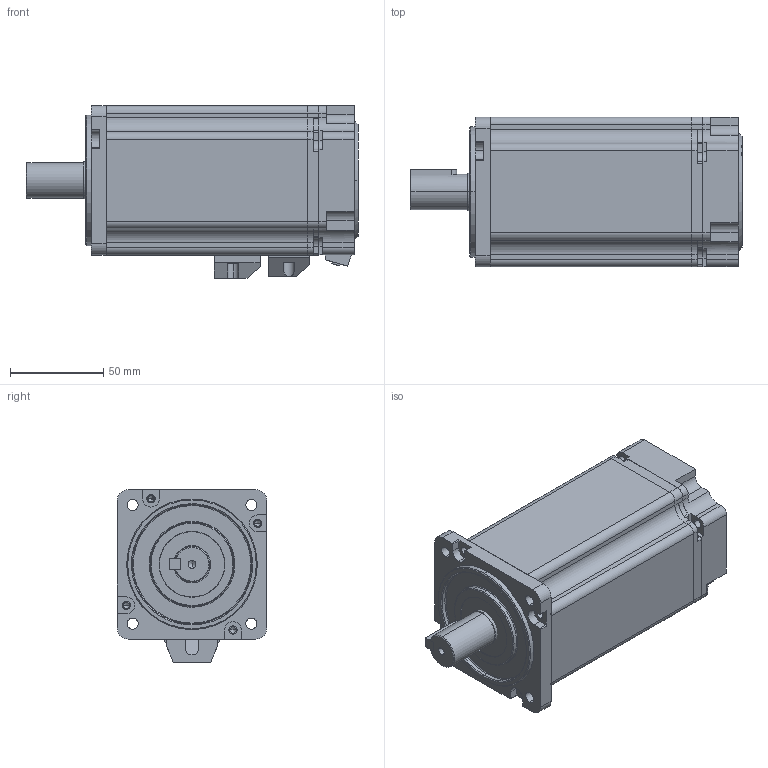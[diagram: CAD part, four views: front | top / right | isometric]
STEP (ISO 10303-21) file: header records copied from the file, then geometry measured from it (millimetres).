
FILE_DESCRIPTION (( 'STEP AP203' ), '1' );
FILE_NAME ('DSMD-08-0830A-G341-N.STEP', '2023-09-07T06:54:45', ( 'Admin' ), ( '' ), 'SwSTEP 2.0', 'SolidWorks 2018', '' );
FILE_SCHEMA (( 'CONFIG_CONTROL_DESIGN' ));
Length unit declared in the file: millimetre
Products named in the file (1): DSMD-08-0830A-G341-N
Bounding box: 178 x 80.2 x 92.7 mm (x, y, z)
Volume: 262282.6 mm3; surface area: 147794.9 mm2
Topology: 9 solids, 9 shells, 900 faces, 2353 edges, 1472 vertices
Faces by surface type: cylinder 395, plane 303, bspline 123, cone 79
Entity records: 30344 total; most frequent: CARTESIAN_POINT 8186, DIRECTION 4736, ORIENTED_EDGE 4596, EDGE_CURVE 2298, AXIS2_PLACEMENT_3D 1813, VERTEX_POINT 1469, LINE 1110, VECTOR 1110
